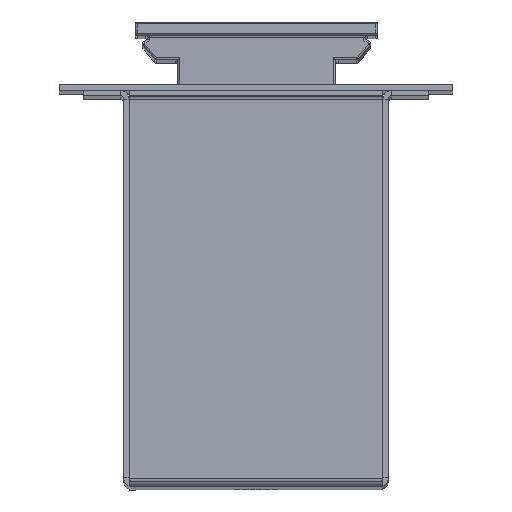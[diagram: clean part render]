
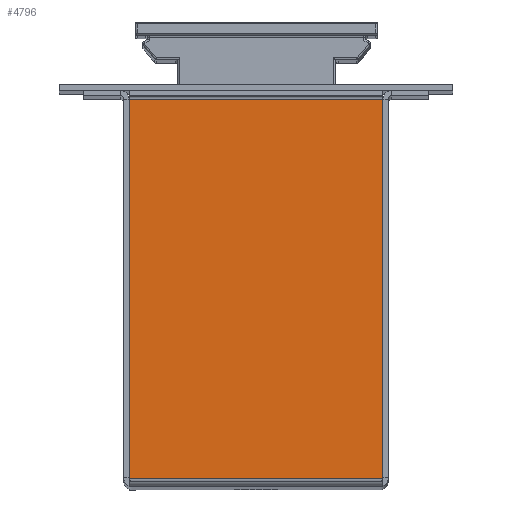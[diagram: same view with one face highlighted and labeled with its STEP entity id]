
A CAD part, top view. The second image highlights one B-rep face of the part: STEP entity #4796.
In plain terms, the highlighted planar face has unit normal (0, 0, 1).
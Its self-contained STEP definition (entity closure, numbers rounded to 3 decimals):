
#112 = EDGE_CURVE ( 'NONE', #11158, #1133, #11015, .T. ) ;
#232 = DIRECTION ( 'NONE',  ( 0., -1., 0. ) ) ;
#335 = AXIS2_PLACEMENT_3D ( 'NONE', #7561, #5578, #5620 ) ;
#871 = VECTOR ( 'NONE', #232, 1000. ) ;
#1133 = VERTEX_POINT ( 'NONE', #4581 ) ;
#1470 = EDGE_CURVE ( 'NONE', #9205, #7438, #5355, .T. ) ;
#1967 = ORIENTED_EDGE ( 'NONE', *, *, #1470, .F. ) ;
#2050 = FACE_OUTER_BOUND ( 'NONE', #9108, .T. ) ;
#2657 = ORIENTED_EDGE ( 'NONE', *, *, #2977, .F. ) ;
#2977 = EDGE_CURVE ( 'NONE', #7438, #1133, #10568, .T. ) ;
#2979 = ORIENTED_EDGE ( 'NONE', *, *, #5849, .F. ) ;
#3037 = CARTESIAN_POINT ( 'NONE',  ( 0., 0., 0. ) ) ;
#3083 = ORIENTED_EDGE ( 'NONE', *, *, #112, .T. ) ;
#4562 = DIRECTION ( 'NONE',  ( -1., 0., 0. ) ) ;
#4581 = CARTESIAN_POINT ( 'NONE',  ( 0., -0.4, 0. ) ) ;
#4796 = ADVANCED_FACE ( 'NONE', ( #2050 ), #5555, .T. ) ;
#5335 = VECTOR ( 'NONE', #7527, 1000. ) ;
#5355 = LINE ( 'NONE', #7633, #5335 ) ;
#5546 = CARTESIAN_POINT ( 'NONE',  ( 39., -58.7, 0. ) ) ;
#5555 = PLANE ( 'NONE',  #335 ) ;
#5578 = DIRECTION ( 'NONE',  ( 0., 0., 1. ) ) ;
#5620 = DIRECTION ( 'NONE',  ( 0., -1., 0. ) ) ;
#5849 = EDGE_CURVE ( 'NONE', #11158, #9205, #10740, .T. ) ;
#7438 = VERTEX_POINT ( 'NONE', #8026 ) ;
#7527 = DIRECTION ( 'NONE',  ( -1., 0., 0. ) ) ;
#7561 = CARTESIAN_POINT ( 'NONE',  ( 0., 0., 0. ) ) ;
#7633 = CARTESIAN_POINT ( 'NONE',  ( 39., -58.7, 0. ) ) ;
#7638 = CARTESIAN_POINT ( 'NONE',  ( 0., -0.4, 0. ) ) ;
#8026 = CARTESIAN_POINT ( 'NONE',  ( 0., -58.7, 0. ) ) ;
#9108 = EDGE_LOOP ( 'NONE', ( #2657, #1967, #2979, #3083 ) ) ;
#9205 = VERTEX_POINT ( 'NONE', #5546 ) ;
#10205 = CARTESIAN_POINT ( 'NONE',  ( 39., -0.4, 0. ) ) ;
#10557 = VECTOR ( 'NONE', #10975, 1000. ) ;
#10568 = LINE ( 'NONE', #3037, #10557 ) ;
#10740 = LINE ( 'NONE', #11119, #871 ) ;
#10975 = DIRECTION ( 'NONE',  ( 0., 1., 0. ) ) ;
#10994 = VECTOR ( 'NONE', #4562, 1000. ) ;
#11015 = LINE ( 'NONE', #7638, #10994 ) ;
#11119 = CARTESIAN_POINT ( 'NONE',  ( 39., -59.2, 0. ) ) ;
#11158 = VERTEX_POINT ( 'NONE', #10205 ) ;
